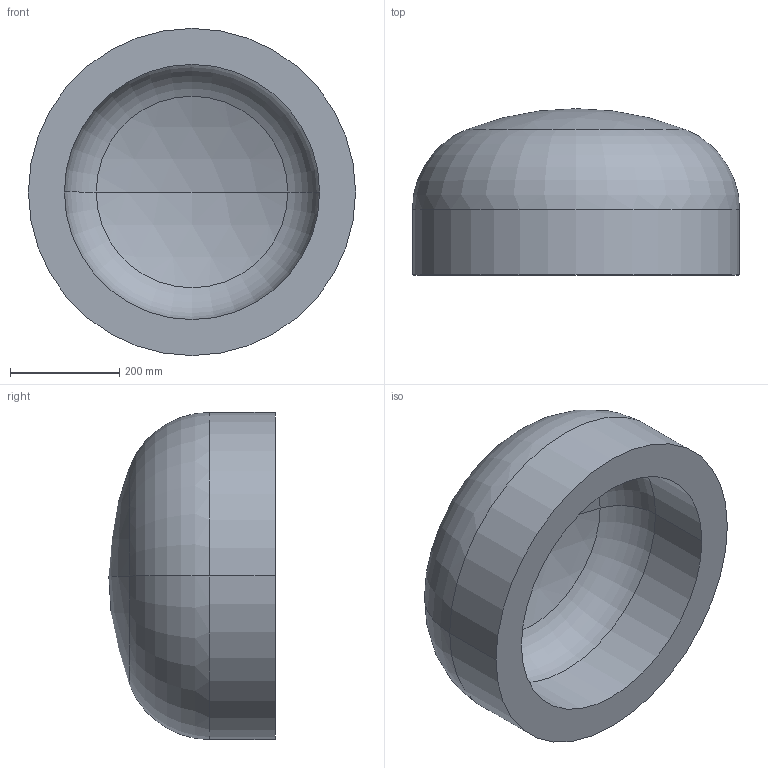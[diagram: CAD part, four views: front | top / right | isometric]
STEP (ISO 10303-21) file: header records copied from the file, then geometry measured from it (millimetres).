
FILE_DESCRIPTION (( 'STEP AP203' ), '1' );
FILE_NAME ('DIN 28013 Korbbogenform_-_Boden DIN 28013 - 600 x 120 - I - s=66.step', '2016-07-01T08:02:24', ( '' ), ( '' ), 'SwSTEP 2.0', 'SolidWorks 2013', '' );
FILE_SCHEMA (( 'CONFIG_CONTROL_DESIGN' ));
Length unit declared in the file: millimetre
Products named in the file (1): DIN 28013 Korbbogenform_-_Boden DIN 28013 - 600 x 120 - I - s=66
Bounding box: 600 x 304.92 x 600 mm (x, y, z)
Volume: 35842852.8 mm3; surface area: 1205992.4 mm2
Topology: 1 solids, 1 shells, 13 faces, 24 edges, 14 vertices
Faces by surface type: torus 4, cylinder 4, sphere 4, plane 1
Entity records: 407 total; most frequent: DIRECTION 72, CARTESIAN_POINT 52, ORIENTED_EDGE 48, AXIS2_PLACEMENT_3D 34, EDGE_CURVE 24, CIRCLE 20, EDGE_LOOP 14, VERTEX_POINT 14
